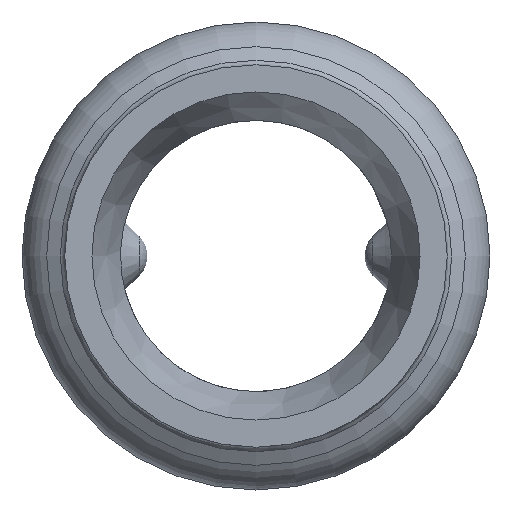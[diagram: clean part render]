
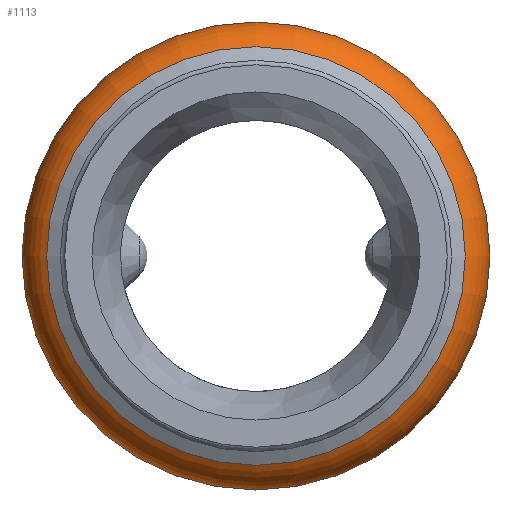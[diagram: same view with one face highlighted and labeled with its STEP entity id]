
A CAD part, left-side view. The second image highlights one B-rep face of the part: STEP entity #1113.
In plain terms, the highlighted toroidal (fillet/blend) face has major radius 10.2 mm and minor radius 2.75 mm.
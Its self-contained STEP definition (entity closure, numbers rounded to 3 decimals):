
#1079=CARTESIAN_POINT('',(-52.382,11.575,0.0));
#1080=VERTEX_POINT('',#1079);
#1081=CARTESIAN_POINT('',(-52.382,0.,0.0));
#1082=DIRECTION('',(1.0,0.0,0.0));
#1083=DIRECTION('',(0.0,1.0,0.0));
#1084=AXIS2_PLACEMENT_3D('',#1081,#1082,#1083);
#1085=CIRCLE('',#1084,11.575);
#1086=EDGE_CURVE('',#1080,#1080,#1085,.T.);
#1094=CARTESIAN_POINT('',(-50.0,0.,0.0));
#1095=DIRECTION('',(1.0,0.,0.0));
#1096=DIRECTION('',(0.0,0.0,-1.0));
#1097=AXIS2_PLACEMENT_3D('',#1094,#1095,#1096);
#1098=TOROIDAL_SURFACE('',#1097,10.2,2.75);
#1099=CARTESIAN_POINT('',(-47.352,10.94,0.0));
#1100=VERTEX_POINT('',#1099);
#1101=CARTESIAN_POINT('',(-47.352,0.,0.0));
#1102=DIRECTION('',(1.0,0.0,0.0));
#1103=DIRECTION('',(0.0,1.0,0.0));
#1104=AXIS2_PLACEMENT_3D('',#1101,#1102,#1103);
#1105=CIRCLE('',#1104,10.94);
#1106=EDGE_CURVE('',#1100,#1100,#1105,.T.);
#1107=ORIENTED_EDGE('',*,*,#1106,.F.);
#1108=EDGE_LOOP('',(#1107));
#1109=FACE_OUTER_BOUND('',#1108,.T.);
#1110=ORIENTED_EDGE('',*,*,#1086,.T.);
#1111=EDGE_LOOP('',(#1110));
#1112=FACE_BOUND('',#1111,.T.);
#1113=ADVANCED_FACE('',(#1109,#1112),#1098,.T.);
